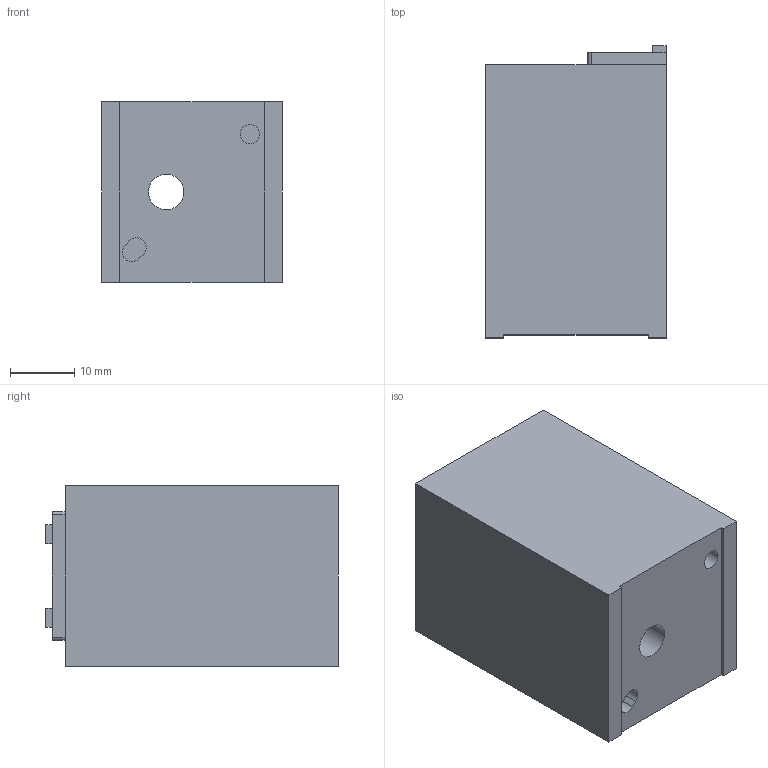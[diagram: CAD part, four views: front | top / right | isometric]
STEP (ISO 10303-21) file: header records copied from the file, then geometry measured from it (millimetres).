
FILE_DESCRIPTION(/* description */ (''),/* implementation_level */ '2;1');
FILE_NAME(/* name */ 'C:\Users\strothej\Documents\ActualDocuments\MicroscopeParts\TwoPhotonSystem\ScanningMechanics\v32\Drawings\Adapter_Breadboard_Kinematic_Mount_Small.stp',/* time_stamp */ '2017-09-01T09:53:18-07:00',/* author */ ('strothej'),/* organization */ (''),/* preprocessor_version */ 'ST-DEVELOPER v16.1',/* originating_system */ 'Autodesk Inventor 2016',/* authorisation */ '');
FILE_SCHEMA (('AUTOMOTIVE_DESIGN { 1 0 10303 214 3 1 1 }'));
Length unit declared in the file: millimetre
Products named in the file (1): Adapter_Breadboard_Kinematic_Mount_Small
Bounding box: 28 x 45.46 x 28 mm (x, y, z)
Volume: 30869 mm3; surface area: 7770.3 mm2
Topology: 1 solids, 1 shells, 36 faces, 92 edges, 61 vertices
Faces by surface type: plane 27, cylinder 8, cone 1
Full cylindrical faces by diameter (mm): 3 x1, 3.242 x1, 5.5 x1, 9.5 x1
Entity records: 1078 total; most frequent: CARTESIAN_POINT 183, DIRECTION 176, ORIENTED_EDGE 172, EDGE_CURVE 86, LINE 70, VECTOR 70, VERTEX_POINT 60, AXIS2_PLACEMENT_3D 53
